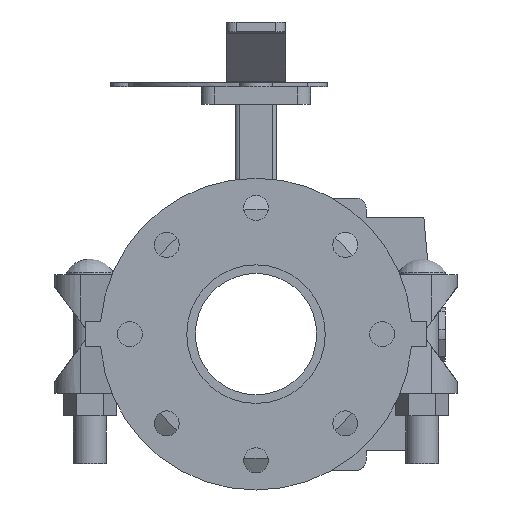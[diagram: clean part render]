
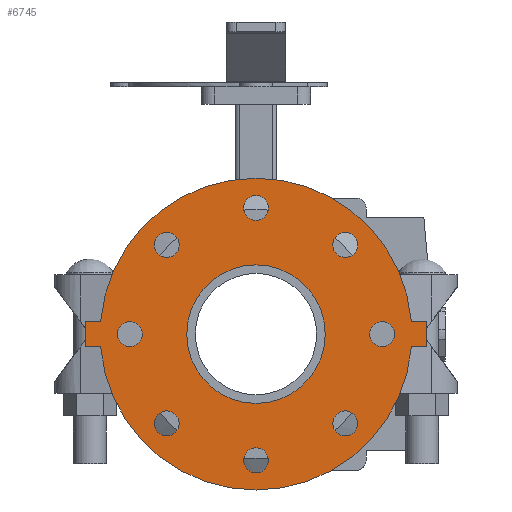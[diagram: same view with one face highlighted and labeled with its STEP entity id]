
A CAD part, front view. The second image highlights one B-rep face of the part: STEP entity #6745.
In plain terms, the highlighted planar face has unit normal (0, -1, 0) as drawn and (0, 0, -1) by its records, which use the part's own axes.
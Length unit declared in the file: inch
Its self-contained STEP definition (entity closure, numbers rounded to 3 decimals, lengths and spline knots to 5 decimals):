
#159=FACE_BOUND('',#837,.T.);
#160=FACE_BOUND('',#838,.T.);
#161=FACE_BOUND('',#839,.T.);
#162=FACE_BOUND('',#840,.T.);
#163=FACE_BOUND('',#841,.T.);
#164=FACE_BOUND('',#842,.T.);
#165=FACE_BOUND('',#843,.T.);
#166=FACE_BOUND('',#844,.T.);
#167=FACE_BOUND('',#845,.T.);
#245=PLANE('',#7311);
#464=FACE_OUTER_BOUND('',#836,.T.);
#836=EDGE_LOOP('',(#4382,#4383,#4384,#4385,#4386,#4387,#4388,#4389));
#837=EDGE_LOOP('',(#4390));
#838=EDGE_LOOP('',(#4391));
#839=EDGE_LOOP('',(#4392));
#840=EDGE_LOOP('',(#4393));
#841=EDGE_LOOP('',(#4394));
#842=EDGE_LOOP('',(#4395));
#843=EDGE_LOOP('',(#4396));
#844=EDGE_LOOP('',(#4397));
#845=EDGE_LOOP('',(#4398));
#1273=LINE('',#10231,#1792);
#1276=LINE('',#10237,#1795);
#1279=LINE('',#10242,#1798);
#1281=LINE('',#10247,#1800);
#1285=LINE('',#10254,#1804);
#1287=LINE('',#10257,#1806);
#1792=VECTOR('',#8143,0.3937);
#1795=VECTOR('',#8148,0.3937);
#1798=VECTOR('',#8153,0.3937);
#1800=VECTOR('',#8157,0.3937);
#1804=VECTOR('',#8163,0.3937);
#1806=VECTOR('',#8167,0.3937);
#2299=CIRCLE('',#7273,0.315);
#2301=CIRCLE('',#7276,0.315);
#2303=CIRCLE('',#7279,0.315);
#2305=CIRCLE('',#7282,0.315);
#2307=CIRCLE('',#7285,0.315);
#2309=CIRCLE('',#7288,0.315);
#2311=CIRCLE('',#7291,0.315);
#2313=CIRCLE('',#7294,0.315);
#2314=CIRCLE('',#7296,1.75);
#2316=CIRCLE('',#7299,3.94);
#2319=CIRCLE('',#7303,3.94);
#2687=VERTEX_POINT('',#10160);
#2689=VERTEX_POINT('',#10166);
#2691=VERTEX_POINT('',#10172);
#2693=VERTEX_POINT('',#10178);
#2695=VERTEX_POINT('',#10184);
#2697=VERTEX_POINT('',#10190);
#2699=VERTEX_POINT('',#10196);
#2701=VERTEX_POINT('',#10202);
#2702=VERTEX_POINT('',#10206);
#2704=VERTEX_POINT('',#10212);
#2706=VERTEX_POINT('',#10215);
#2708=VERTEX_POINT('',#10221);
#2711=VERTEX_POINT('',#10226);
#2712=VERTEX_POINT('',#10230);
#2714=VERTEX_POINT('',#10236);
#2716=VERTEX_POINT('',#10245);
#2717=VERTEX_POINT('',#10246);
#3336=EDGE_CURVE('',#2687,#2687,#2299,.T.);
#3339=EDGE_CURVE('',#2689,#2689,#2301,.T.);
#3342=EDGE_CURVE('',#2691,#2691,#2303,.T.);
#3345=EDGE_CURVE('',#2693,#2693,#2305,.T.);
#3348=EDGE_CURVE('',#2695,#2695,#2307,.T.);
#3351=EDGE_CURVE('',#2697,#2697,#2309,.T.);
#3354=EDGE_CURVE('',#2699,#2699,#2311,.T.);
#3357=EDGE_CURVE('',#2701,#2701,#2313,.T.);
#3358=EDGE_CURVE('',#2702,#2702,#2314,.T.);
#3362=EDGE_CURVE('',#2704,#2706,#2316,.T.);
#3368=EDGE_CURVE('',#2711,#2708,#2319,.T.);
#3369=EDGE_CURVE('',#2706,#2712,#1273,.T.);
#3372=EDGE_CURVE('',#2714,#2711,#1276,.T.);
#3375=EDGE_CURVE('',#2712,#2714,#1279,.T.);
#3377=EDGE_CURVE('',#2716,#2717,#1281,.T.);
#3381=EDGE_CURVE('',#2708,#2716,#1285,.T.);
#3383=EDGE_CURVE('',#2717,#2704,#1287,.T.);
#4382=ORIENTED_EDGE('',*,*,#3383,.F.);
#4383=ORIENTED_EDGE('',*,*,#3377,.F.);
#4384=ORIENTED_EDGE('',*,*,#3381,.F.);
#4385=ORIENTED_EDGE('',*,*,#3368,.F.);
#4386=ORIENTED_EDGE('',*,*,#3372,.F.);
#4387=ORIENTED_EDGE('',*,*,#3375,.F.);
#4388=ORIENTED_EDGE('',*,*,#3369,.F.);
#4389=ORIENTED_EDGE('',*,*,#3362,.F.);
#4390=ORIENTED_EDGE('',*,*,#3336,.T.);
#4391=ORIENTED_EDGE('',*,*,#3339,.T.);
#4392=ORIENTED_EDGE('',*,*,#3342,.T.);
#4393=ORIENTED_EDGE('',*,*,#3345,.T.);
#4394=ORIENTED_EDGE('',*,*,#3348,.T.);
#4395=ORIENTED_EDGE('',*,*,#3351,.T.);
#4396=ORIENTED_EDGE('',*,*,#3354,.T.);
#4397=ORIENTED_EDGE('',*,*,#3357,.T.);
#4398=ORIENTED_EDGE('',*,*,#3358,.T.);
#6745=ADVANCED_FACE('',(#464,#159,#160,#161,#162,#163,#164,#165,#166,#167),
#245,.F.);
#7273=AXIS2_PLACEMENT_3D('',#10162,#8067,#8068);
#7276=AXIS2_PLACEMENT_3D('',#10168,#8074,#8075);
#7279=AXIS2_PLACEMENT_3D('',#10174,#8081,#8082);
#7282=AXIS2_PLACEMENT_3D('',#10180,#8088,#8089);
#7285=AXIS2_PLACEMENT_3D('',#10186,#8095,#8096);
#7288=AXIS2_PLACEMENT_3D('',#10192,#8102,#8103);
#7291=AXIS2_PLACEMENT_3D('',#10198,#8109,#8110);
#7294=AXIS2_PLACEMENT_3D('',#10204,#8116,#8117);
#7296=AXIS2_PLACEMENT_3D('',#10207,#8120,#8121);
#7299=AXIS2_PLACEMENT_3D('',#10216,#8128,#8129);
#7303=AXIS2_PLACEMENT_3D('',#10228,#8139,#8140);
#7311=AXIS2_PLACEMENT_3D('',#10260,#8171,#8172);
#8067=DIRECTION('center_axis',(0.,0.,1.));
#8068=DIRECTION('ref_axis',(-0.707,-0.707,0.));
#8074=DIRECTION('center_axis',(0.,0.,1.));
#8075=DIRECTION('ref_axis',(-1.,0.,0.));
#8081=DIRECTION('center_axis',(0.,0.,1.));
#8082=DIRECTION('ref_axis',(-0.707,0.707,0.));
#8088=DIRECTION('center_axis',(0.,0.,1.));
#8089=DIRECTION('ref_axis',(0.,1.,0.));
#8095=DIRECTION('center_axis',(0.,0.,1.));
#8096=DIRECTION('ref_axis',(0.707,0.707,0.));
#8102=DIRECTION('center_axis',(0.,0.,1.));
#8103=DIRECTION('ref_axis',(1.,0.,0.));
#8109=DIRECTION('center_axis',(0.,0.,1.));
#8110=DIRECTION('ref_axis',(0.707,-0.707,0.));
#8116=DIRECTION('center_axis',(0.,0.,1.));
#8117=DIRECTION('ref_axis',(0.,-1.,0.));
#8120=DIRECTION('center_axis',(0.,0.,1.));
#8121=DIRECTION('ref_axis',(0.,-1.,0.));
#8128=DIRECTION('center_axis',(0.,0.,1.));
#8129=DIRECTION('ref_axis',(0.,1.,0.));
#8139=DIRECTION('center_axis',(0.,0.,1.));
#8140=DIRECTION('ref_axis',(0.,1.,0.));
#8143=DIRECTION('',(0.,-1.,0.));
#8148=DIRECTION('',(0.,1.,0.));
#8153=DIRECTION('',(1.,0.,0.));
#8157=DIRECTION('',(-1.,0.,0.));
#8163=DIRECTION('',(0.,1.,0.));
#8167=DIRECTION('',(0.,-1.,0.));
#8171=DIRECTION('center_axis',(0.,0.,1.));
#8172=DIRECTION('ref_axis',(0.,1.,0.));
#10160=CARTESIAN_POINT('',(-2.03293,2.47841,0.));
#10162=CARTESIAN_POINT('Origin',(-2.25567,2.25567,0.));
#10166=CARTESIAN_POINT('',(0.315,3.19,0.));
#10168=CARTESIAN_POINT('Origin',(0.,3.19,0.));
#10172=CARTESIAN_POINT('',(2.47841,2.03293,0.));
#10174=CARTESIAN_POINT('Origin',(2.25567,2.25567,0.));
#10178=CARTESIAN_POINT('',(3.19,-0.315,0.));
#10180=CARTESIAN_POINT('Origin',(3.19,0.,0.));
#10184=CARTESIAN_POINT('',(2.03293,-2.47841,0.));
#10186=CARTESIAN_POINT('Origin',(2.25567,-2.25567,0.));
#10190=CARTESIAN_POINT('',(-0.315,-3.19,0.));
#10192=CARTESIAN_POINT('Origin',(0.,-3.19,0.));
#10196=CARTESIAN_POINT('',(-2.47841,-2.03293,0.));
#10198=CARTESIAN_POINT('Origin',(-2.25567,-2.25567,0.));
#10202=CARTESIAN_POINT('',(-3.19,0.315,0.));
#10204=CARTESIAN_POINT('Origin',(-3.19,0.,0.));
#10206=CARTESIAN_POINT('',(0.,1.75,0.));
#10207=CARTESIAN_POINT('Origin',(0.,0.,0.));
#10212=CARTESIAN_POINT('',(-0.32,3.92698,0.));
#10215=CARTESIAN_POINT('',(-0.32,-3.92698,0.));
#10216=CARTESIAN_POINT('Origin',(0.,0.,0.));
#10221=CARTESIAN_POINT('',(0.32,3.92698,0.));
#10226=CARTESIAN_POINT('',(0.32,-3.92698,0.));
#10228=CARTESIAN_POINT('Origin',(0.,0.,0.));
#10230=CARTESIAN_POINT('',(-0.32,-4.315,0.));
#10231=CARTESIAN_POINT('',(-0.32,-3.92698,0.));
#10236=CARTESIAN_POINT('',(0.32,-4.315,0.));
#10237=CARTESIAN_POINT('',(0.32,-4.315,0.));
#10242=CARTESIAN_POINT('',(-0.32,-4.315,0.));
#10245=CARTESIAN_POINT('',(0.32,4.315,0.));
#10246=CARTESIAN_POINT('',(-0.32,4.315,0.));
#10247=CARTESIAN_POINT('',(0.32,4.315,0.));
#10254=CARTESIAN_POINT('',(0.32,3.92698,0.));
#10257=CARTESIAN_POINT('',(-0.32,4.315,0.));
#10260=CARTESIAN_POINT('Origin',(0.,4.1395,
0.));
